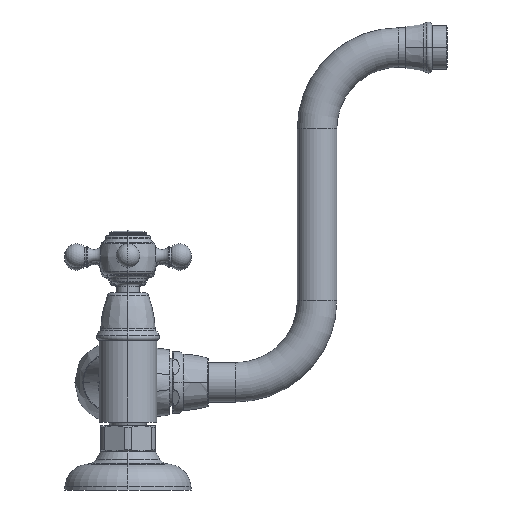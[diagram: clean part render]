
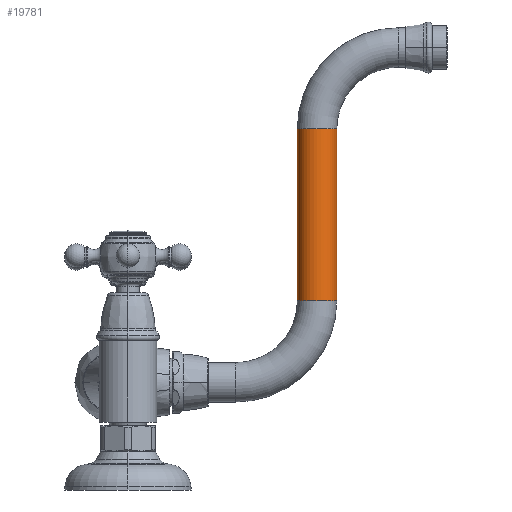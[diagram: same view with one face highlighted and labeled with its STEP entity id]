
A CAD part, left-side view. The second image highlights one B-rep face of the part: STEP entity #19781.
In plain terms, the highlighted cylindrical face has radius 10.9 mm (diameter 21.8 mm), a partial arc.
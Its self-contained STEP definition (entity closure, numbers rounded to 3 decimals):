
#4819=CARTESIAN_POINT('',(0.,-104.5,45.));
#4820=DIRECTION('',(0.,0.,1.));
#4821=DIRECTION('',(0.,1.,0.));
#4822=AXIS2_PLACEMENT_3D('',#4819,#4820,#4821);
#4824=DIRECTION('',(0.,0.,1.));
#4825=VECTOR('',#4824,95.);
#4826=CARTESIAN_POINT('',(0.,-93.6,45.));
#4827=LINE('',#4826,#4825);
#4833=DIRECTION('',(0.,0.,1.));
#4834=VECTOR('',#4833,95.);
#4835=CARTESIAN_POINT('',(0.,-115.4,45.));
#4836=LINE('',#4835,#4834);
#4847=CARTESIAN_POINT('',(0.,-104.5,140.));
#4848=DIRECTION('',(0.,0.,1.));
#4849=DIRECTION('',(0.,1.,0.));
#4850=AXIS2_PLACEMENT_3D('',#4847,#4848,#4849);
#15222=CARTESIAN_POINT('',(0.,-93.6,45.));
#15223=CARTESIAN_POINT('',(0.,-115.4,45.));
#15224=VERTEX_POINT('',#15222);
#15225=VERTEX_POINT('',#15223);
#15226=CARTESIAN_POINT('',(0.,-93.6,140.));
#15227=CARTESIAN_POINT('',(0.,-115.4,140.));
#15228=VERTEX_POINT('',#15226);
#15229=VERTEX_POINT('',#15227);
#19767=CARTESIAN_POINT('',(0.,-104.5,45.));
#19768=DIRECTION('',(0.,0.,1.));
#19769=DIRECTION('',(0.,1.,0.));
#19770=AXIS2_PLACEMENT_3D('',#19767,#19768,#19769);
#19771=CYLINDRICAL_SURFACE('',#19770,10.9);
#19772=ORIENTED_EDGE('',*,*,#19761,.F.);
#19774=ORIENTED_EDGE('',*,*,#19773,.T.);
#19776=ORIENTED_EDGE('',*,*,#19775,.T.);
#19778=ORIENTED_EDGE('',*,*,#19777,.F.);
#19779=EDGE_LOOP('',(#19772,#19774,#19776,#19778));
#19780=FACE_OUTER_BOUND('',#19779,.F.);
#19781=ADVANCED_FACE('',(#19780),#19771,.T.);
#4823=CIRCLE('',#4822,10.9);
#4851=CIRCLE('',#4850,10.9);
#19761=EDGE_CURVE('',#15224,#15225,#4823,.T.);
#19773=EDGE_CURVE('',#15224,#15228,#4827,.T.);
#19775=EDGE_CURVE('',#15228,#15229,#4851,.T.);
#19777=EDGE_CURVE('',#15225,#15229,#4836,.T.);
